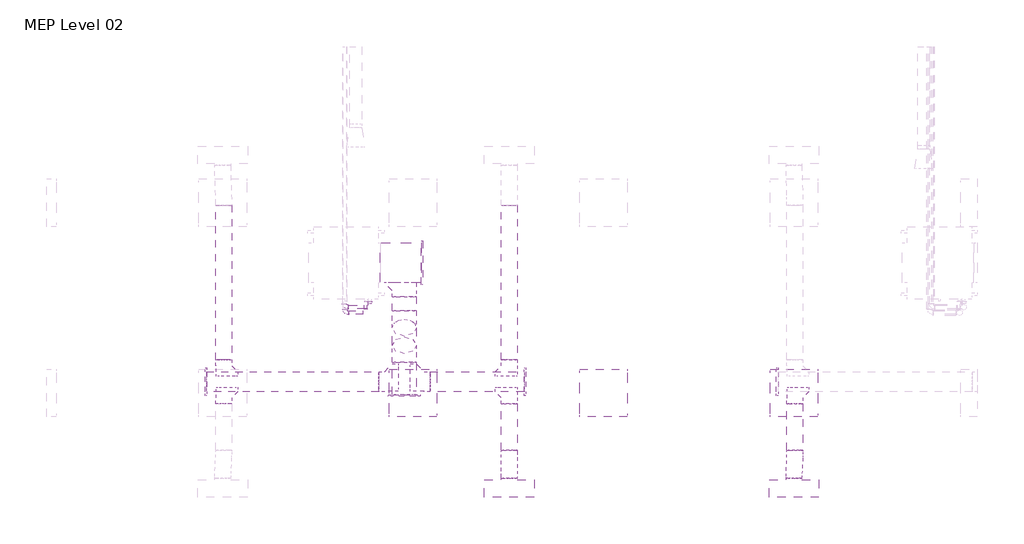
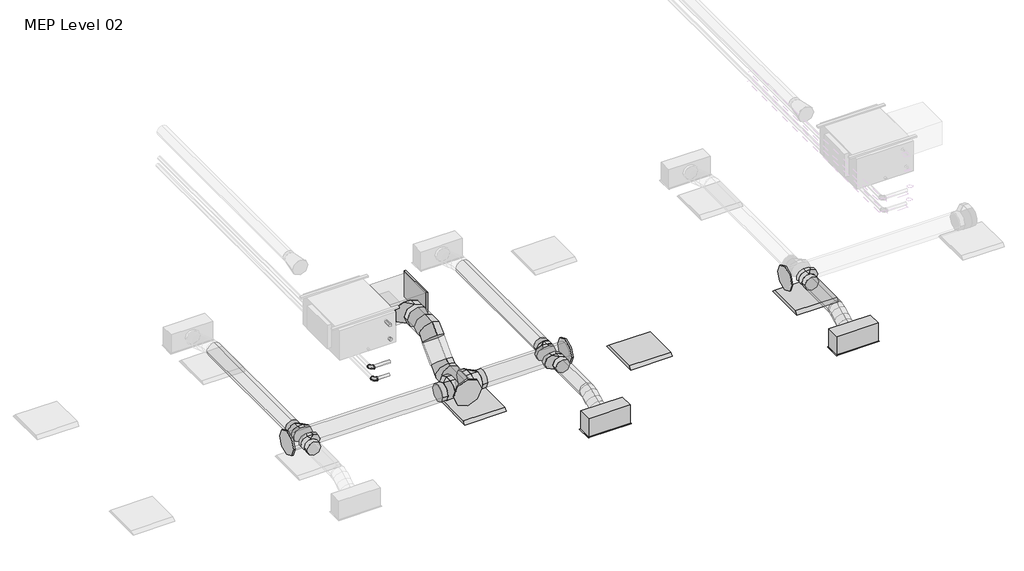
# One storey, part 5 of 26: 15 duct fittings, 12 duct segments, 4 pipe segments, 3 light fixtures, 2 air terminals, 2 pipe fittings.
"""IFC4 building model written with IfcOpenShell, lengths in millimetres."""

from ifc_helpers import new_model, si_unit, point, frame, frame_2d, origin, place, context, project, spatial, polyline, circle_curve, ellipse_curve, trimmed, segment, composite_curve, outline, extrude, transform, mapped, element, save
from ifc_brep_helpers import plane_surface, cylinder_surface, advanced_brep
from components import supply_diffuser_with_plenum_linear_slot_hosted_8c379eed, dw144_rectangular_blank_end_standard_8fde7d16, dw144_round_blank_end_standard_f82b0856, dw144_round_blank_end_standard_9aa061e7, dw144_round_segmented_bend_slip_joint_standard_8b80c5ae, dw144_round_shoe_branch_slip_joint_standard_15a2edd8, dw144_round_shoe_branch_slip_joint_standard_559552f4, dw144_round_shoe_branch_slip_joint_standard_7ba9e4ed, dw144_round_shoe_branch_slip_joint_standard_67b64720, light_fixture_600x600_230_1c7c1157, elbow_threaded_gmi_standard_b4aa7741

model = new_model("IFC4")

# Units and contexts
model_context = context("Model", 3, world=origin())
ifc_project = project(units=[si_unit("LENGTHUNIT", "METRE", prefix="MILLI")], contexts=[model_context])

# Site, building, storey
site = spatial("IfcSite", under=ifc_project)
building = spatial("IfcBuilding", under=site)
storey = spatial("IfcBuildingStorey", under=building, Name="MEP Level 02", Elevation=7800.0)

# Air terminals
placement = place(None, origin())
supply_diffuser_with_plenum_linear_slot_hosted_shape = supply_diffuser_with_plenum_linear_slot_hosted_8c379eed(model_context)
element("IfcAirTerminal", 1, ObjectType="Supply Diffuser with Plenum - Linear Slot - Hosted : 600mmx193.8mm-200 In Inlet  4-Slot", at=placement, inside=storey, context=model_context, shape_type="MappedRepresentation", body=[
    mapped(supply_diffuser_with_plenum_linear_slot_hosted_shape, transform((19973.9000022, 963.2000004, 10600.0), x_axis=(1.0, 0.0, 0.0), y_axis=(0.0, -1.0, 0.0), z_axis=(0.0, 0.0, -1.0))),
])
element("IfcAirTerminal", 2, ObjectType="Supply Diffuser with Plenum - Linear Slot - Hosted : 600mmx193.8mm-200 In Inlet  4-Slot", at=placement, inside=storey, context=model_context, shape_type="MappedRepresentation", body=[
    mapped(supply_diffuser_with_plenum_linear_slot_hosted_shape, transform((23562.2000027, 963.2000004, 10600.0), x_axis=(1.0, 0.0, 0.0), y_axis=(0.0, -1.0, 0.0), z_axis=(0.0, 0.0, -1.0))),
])

# Duct fittings
dw144_rectangular_blank_end_standard_shape = dw144_rectangular_blank_end_standard_8fde7d16(model_context)
element("IfcDuctFitting", 3, ObjectType="DW144 Rectangular Blank End : Standard", at=placement, inside=storey, context=model_context, shape_type="MappedRepresentation", body=[
    mapped(dw144_rectangular_blank_end_standard_shape, transform((18866.2561025, 3806.0000004, 11276.3911538), x_axis=(1.0, 0.0, 0.0), y_axis=(0.0, 1.0, 0.0), z_axis=(0.0, 0.0, 1.0))),
])
dw144_round_blank_end_standard_shape = dw144_round_blank_end_standard_f82b0856(model_context)
element("IfcDuctFitting", 4, ObjectType="DW144 Round Blank End : Standard", at=placement, inside=storey, context=model_context, shape_type="MappedRepresentation", body=[
    mapped(dw144_round_blank_end_standard_shape, transform((18651.4561025, 2142.9916128, 10872.2088531), x_axis=(0.0, -1.0, 0.0), y_axis=(1.0, 0.0, 0.0), z_axis=(0.0, 0.0, 1.0))),
])
dw144_round_blank_end_standard_2_shape = dw144_round_blank_end_standard_9aa061e7(model_context)
element("IfcDuctFitting", 5, ObjectType="DW144 Round Blank End : Standard", at=placement, inside=storey, context=model_context, shape_type="MappedRepresentation", body=[
    mapped(dw144_round_blank_end_standard_2_shape, transform((20161.4561025, 2306.5018192, 10872.2088531), x_axis=(1.0, 0.0, 0.0), y_axis=(0.0, 1.0, 0.0), z_axis=(0.0, 0.0, 1.0))),
])
element("IfcDuctFitting", 6, ObjectType="DW144 Round Blank End : Standard", at=placement, inside=storey, context=model_context, shape_type="MappedRepresentation", body=[
    mapped(dw144_round_blank_end_standard_2_shape, transform((16161.4561025, 2306.5018192, 10872.2088531), x_axis=(-1.0, 0.0, 0.0), y_axis=(0.0, -1.0, 0.0), z_axis=(0.0, 0.0, 1.0))),
])
element("IfcDuctFitting", 7, ObjectType="DW144 Round Blank End : Standard", at=placement, inside=storey, context=model_context, shape_type="MappedRepresentation", body=[
    mapped(dw144_round_blank_end_standard_2_shape, transform((23361.4561025, 2306.5018192, 10872.2088531), x_axis=(-1.0, 0.0, 0.0), y_axis=(0.0, -1.0, 0.0), z_axis=(0.0, 0.0, 1.0))),
])
dw144_round_segmented_bend_slip_joint_standard_shape = dw144_round_segmented_bend_slip_joint_standard_8b80c5ae(model_context)
element("IfcDuctFitting", 8, ObjectType="DW144 Round Segmented Bend - Slip Joint : Standard", at=placement, inside=storey, context=model_context, shape_type="MappedRepresentation", body=[
    mapped(dw144_round_segmented_bend_slip_joint_standard_shape, transform((18651.4561025, 2678.6338536, 10872.2088531), x_axis=(0.0, -0.7071067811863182, -0.7071067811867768), y_axis=(0.0, 0.7071067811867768, -0.7071067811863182), z_axis=(1.0, 0.0, 0.0))),
])
element("IfcDuctFitting", 9, ObjectType="DW144 Round Segmented Bend - Slip Joint : Standard", at=placement, inside=storey, context=model_context, shape_type="MappedRepresentation", body=[
    mapped(dw144_round_segmented_bend_slip_joint_standard_shape, transform((18651.4561025, 3076.0000004, 11269.575), x_axis=(0.0, -1.0, 0.0), y_axis=(0.0, 0.0, 1.0), z_axis=(-1.0, 0.0, 0.0))),
])
dw144_round_shoe_branch_slip_joint_standard_shape = dw144_round_shoe_branch_slip_joint_standard_15a2edd8(model_context)
element("IfcDuctFitting", 10, ObjectType="DW144 Round Shoe Branch - Slip Joint : Standard", at=placement, inside=storey, context=model_context, shape_type="MappedRepresentation", body=[
    mapped(dw144_round_shoe_branch_slip_joint_standard_shape, transform((16373.9000022, 2181.5018192, 10872.2088531), x_axis=(0.0, -1.0, 0.0), y_axis=(-1.0, 0.0, 0.0), z_axis=(0.0, 0.0, -1.0))),
])
element("IfcDuctFitting", 11, ObjectType="DW144 Round Shoe Branch - Slip Joint : Standard", at=placement, inside=storey, context=model_context, shape_type="MappedRepresentation", body=[
    mapped(dw144_round_shoe_branch_slip_joint_standard_shape, transform((16373.9000022, 2431.5018192, 10872.2088531), x_axis=(0.0, 1.0, 0.0), y_axis=(-1.0, 0.0, 0.0), z_axis=(0.0, 0.0, 1.0))),
])
element("IfcDuctFitting", 12, ObjectType="DW144 Round Shoe Branch - Slip Joint : Standard", at=placement, inside=storey, context=model_context, shape_type="MappedRepresentation", body=[
    mapped(dw144_round_shoe_branch_slip_joint_standard_shape, transform((23573.9000022, 2181.5018192, 10872.2088531), x_axis=(0.0, -1.0, 0.0), y_axis=(-1.0, 0.0, 0.0), z_axis=(0.0, 0.0, -1.0))),
])
dw144_round_shoe_branch_slip_joint_standard_2_shape = dw144_round_shoe_branch_slip_joint_standard_559552f4(model_context)
element("IfcDuctFitting", 13, ObjectType="DW144 Round Shoe Branch - Slip Joint : Standard", at=placement, inside=storey, context=model_context, shape_type="MappedRepresentation", body=[
    mapped(dw144_round_shoe_branch_slip_joint_standard_2_shape, transform((19973.9000022, 2181.5018192, 10872.2088531), x_axis=(0.0, -1.0, 0.0), y_axis=(-1.0, 0.0, 0.0), z_axis=(0.0, 0.0, -1.0))),
])
element("IfcDuctFitting", 14, ObjectType="DW144 Round Shoe Branch - Slip Joint : Standard", at=placement, inside=storey, context=model_context, shape_type="MappedRepresentation", body=[
    mapped(dw144_round_shoe_branch_slip_joint_standard_2_shape, transform((19973.9000022, 2431.5018192, 10872.2088531), x_axis=(0.0, 1.0, 0.0), y_axis=(-1.0, 0.0, 0.0), z_axis=(0.0, 0.0, 1.0))),
])
dw144_round_shoe_branch_slip_joint_standard_3_shape = dw144_round_shoe_branch_slip_joint_standard_7ba9e4ed(model_context)
element("IfcDuctFitting", 15, ObjectType="DW144 Round Shoe Branch - Slip Joint : Standard", at=placement, inside=storey, context=model_context, shape_type="MappedRepresentation", body=[
    mapped(dw144_round_shoe_branch_slip_joint_standard_3_shape, transform((18651.4561025, 3556.0000004, 11269.575), x_axis=(0.0, -1.0, 0.0), y_axis=(-1.0, 0.0, 0.0), z_axis=(0.0, 0.0, -1.0))),
])
dw144_round_shoe_branch_slip_joint_standard_4_shape = dw144_round_shoe_branch_slip_joint_standard_67b64720(model_context)
element("IfcDuctFitting", 16, ObjectType="DW144 Round Shoe Branch - Slip Joint : Standard", at=placement, inside=storey, context=model_context, shape_type="MappedRepresentation", body=[
    mapped(dw144_round_shoe_branch_slip_joint_standard_4_shape, transform((18801.4561025, 2306.5018192, 10872.2088531), x_axis=(1.0, 0.0, 0.0), y_axis=(0.0, -1.0, 0.0), z_axis=(0.0, 0.0, -1.0))),
])
element("IfcDuctFitting", 17, ObjectType="DW144 Round Shoe Branch - Slip Joint : Standard", at=placement, inside=storey, context=model_context, shape_type="MappedRepresentation", body=[
    mapped(dw144_round_shoe_branch_slip_joint_standard_4_shape, transform((18501.4561025, 2306.5018192, 10872.2088531), x_axis=(-1.0, 0.0, 0.0), y_axis=(0.0, -1.0, 0.0), z_axis=(0.0, 0.0, 1.0))),
])

# Duct segments
element("IfcDuctSegment", 18, ObjectType="DW144 Flanged Med Radius Bend / Shoe Branch", at=placement, inside=storey, context=model_context, shape_type="SweptSolid", body=[
    extrude(outline(polyline([(18346.6561025, 3556.0000004), (18346.6561025, 4056.0000004), (18866.2561025, 4056.0000004), (18866.2561025, 3556.0000004), (18346.6561025, 3556.0000004)])), frame((0.0, 0.0, 11101.3911538), z_axis=(0.0, 0.0, 1.0), x_axis=(1.0, 0.0, 0.0)), (0.0, 0.0, 1.0), 350.0),
])
element("IfcDuctSegment", 19, ObjectType="DW144 Segmented Bend / Shoe Branch", at=placement, inside=storey, context=model_context, shape_type="SweptSolid", body=[
    extrude(outline(composite_curve([segment(trimmed(circle_curve(frame_2d((11269.575, 18651.4561025)), 150.0), [point((11269.575, 18501.4561025))], [point((11119.575, 18651.4561025))], False, "CARTESIAN"), True, "CONTINUOUS"), segment(trimmed(circle_curve(frame_2d((11269.575, 18651.4561025)), 150.0), [point((11119.575, 18651.4561025))], [point((11269.575, 18801.4561025))], False, "CARTESIAN"), True, "CONTINUOUS"), segment(trimmed(circle_curve(frame_2d((11269.575, 18651.4561025)), 150.0), [point((11269.575, 18801.4561025))], [point((11419.575, 18651.4561025))], False, "CARTESIAN"), True, "CONTINUOUS"), segment(trimmed(circle_curve(frame_2d((11269.575, 18651.4561025)), 150.0), [point((11419.575, 18651.4561025))], [point((11269.575, 18501.4561025))], False, "CARTESIAN"), True, "CONTINUOUS")], self_intersect=False)), frame((0.0, 3200.2640691, 0.0), z_axis=(0.0, 1.0, 0.0), x_axis=(0.0, 0.0, 1.0)), (0.0, 0.0, 1.0), 180.7359313),
])
element("IfcDuctSegment", 20, ObjectType="DW144 Segmented Bend / Shoe Branch", at=placement, inside=storey, context=model_context, shape_type="SweptSolid", body=[
    extrude(outline(composite_curve([segment(trimmed(circle_curve(frame_2d((10872.2088531, 18651.4561025)), 150.0), [point((10872.2088531, 18501.4561025))], [point((10722.2088531, 18651.4561025))], False, "CARTESIAN"), True, "CONTINUOUS"), segment(trimmed(circle_curve(frame_2d((10872.2088531, 18651.4561025)), 150.0), [point((10722.2088531, 18651.4561025))], [point((10872.2088531, 18801.4561025))], False, "CARTESIAN"), True, "CONTINUOUS"), segment(trimmed(circle_curve(frame_2d((10872.2088531, 18651.4561025)), 150.0), [point((10872.2088531, 18801.4561025))], [point((11022.2088531, 18651.4561025))], False, "CARTESIAN"), True, "CONTINUOUS"), segment(trimmed(circle_curve(frame_2d((10872.2088531, 18651.4561025)), 150.0), [point((11022.2088531, 18651.4561025))], [point((10872.2088531, 18501.4561025))], False, "CARTESIAN"), True, "CONTINUOUS")], self_intersect=False)), frame((0.0, 2142.9916128, 0.0), z_axis=(0.0, 1.0, 0.0), x_axis=(0.0, 0.0, 1.0)), (0.0, 0.0, 1.0), 411.3781721),
])
element("IfcDuctSegment", 21, ObjectType="DW144 Segmented Bend / Shoe Branch", at=placement, inside=storey, context=model_context, shape_type="SweptSolid", body=[
    extrude(outline(composite_curve([segment(trimmed(circle_curve(frame_2d((0.0, -150.0)), 150.0), [point((-150.0, -150.0))], [point((0.0, 0.0))], False, "CARTESIAN"), True, "CONTINUOUS"), segment(trimmed(circle_curve(frame_2d((0.0, -150.0)), 150.0), [point((0.0, 0.0))], [point((150.0, -150.0))], False, "CARTESIAN"), True, "CONTINUOUS"), segment(trimmed(circle_curve(frame_2d((0.0, -150.0)), 150.0), [point((150.0, -150.0))], [point((0.0, -300.0))], False, "CARTESIAN"), True, "CONTINUOUS"), segment(trimmed(circle_curve(frame_2d((0.0, -150.0)), 150.0), [point((0.0, -300.0))], [point((-150.0, -150.0))], False, "CARTESIAN"), True, "CONTINUOUS")], self_intersect=False)), frame((18651.4561025, 2872.5678364, 10854.0108016), z_axis=(0.0, 0.7071067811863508, 0.7071067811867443), x_axis=(1.0, 0.0, 0.0)), (0.0, 0.0, 1.0), 313.4324567),
])
element("IfcDuctSegment", 22, ObjectType="DW144 Segmented Bend / Shoe Branch", at=placement, inside=storey, context=model_context, shape_type="SweptSolid", body=[
    extrude(outline(composite_curve([segment(trimmed(circle_curve(frame_2d((2306.5018192, 10872.2088531)), 125.0), [point((2181.5018192, 10872.2088531))], [point((2306.5018192, 10997.2088531))], False, "CARTESIAN"), True, "CONTINUOUS"), segment(trimmed(circle_curve(frame_2d((2306.5018192, 10872.2088531)), 125.0), [point((2306.5018192, 10997.2088531))], [point((2431.5018192, 10872.2088531))], False, "CARTESIAN"), True, "CONTINUOUS"), segment(trimmed(circle_curve(frame_2d((2306.5018192, 10872.2088531)), 125.0), [point((2431.5018192, 10872.2088531))], [point((2306.5018192, 10747.2088531))], False, "CARTESIAN"), True, "CONTINUOUS"), segment(trimmed(circle_curve(frame_2d((2306.5018192, 10872.2088531)), 125.0), [point((2306.5018192, 10747.2088531))], [point((2181.5018192, 10872.2088531))], False, "CARTESIAN"), True, "CONTINUOUS")], self_intersect=False)), frame((18976.4561025, 0.0, 0.0), z_axis=(1.0, 0.0, 0.0), x_axis=(0.0, 1.0, 0.0)), (0.0, 0.0, 1.0), 1185.0),
])
element("IfcDuctSegment", 23, ObjectType="DW144 Segmented Bend / Shoe Branch", at=placement, inside=storey, context=model_context, shape_type="SweptSolid", body=[
    extrude(outline(composite_curve([segment(trimmed(circle_curve(frame_2d((2306.5018192, 10872.2088531)), 125.0), [point((2431.5018192, 10872.2088531))], [point((2306.5018192, 10747.2088531))], False, "CARTESIAN"), True, "CONTINUOUS"), segment(trimmed(circle_curve(frame_2d((2306.5018192, 10872.2088531)), 125.0), [point((2306.5018192, 10747.2088531))], [point((2181.5018192, 10872.2088531))], False, "CARTESIAN"), True, "CONTINUOUS"), segment(trimmed(circle_curve(frame_2d((2306.5018192, 10872.2088531)), 125.0), [point((2181.5018192, 10872.2088531))], [point((2306.5018192, 10997.2088531))], False, "CARTESIAN"), True, "CONTINUOUS"), segment(trimmed(circle_curve(frame_2d((2306.5018192, 10872.2088531)), 125.0), [point((2306.5018192, 10997.2088531))], [point((2431.5018192, 10872.2088531))], False, "CARTESIAN"), True, "CONTINUOUS")], self_intersect=False)), frame((16161.4561025, 0.0, 0.0), z_axis=(1.0, 0.0, 0.0), x_axis=(0.0, 1.0, 0.0)), (0.0, 0.0, 1.0), 2165.0),
])
element("IfcDuctSegment", 24, ObjectType="DW144 Segmented Bend / Shoe Branch", at=placement, inside=storey, context=model_context, shape_type="SweptSolid", body=[
    extrude(outline(composite_curve([segment(trimmed(circle_curve(frame_2d((10872.2088531, 19973.9000022)), 100.0), [point((10872.2088531, 19873.9000022))], [point((10772.2088531, 19973.9000022))], False, "CARTESIAN"), True, "CONTINUOUS"), segment(trimmed(circle_curve(frame_2d((10872.2088531, 19973.9000022)), 100.0), [point((10772.2088531, 19973.9000022))], [point((10872.2088531, 20073.9000022))], False, "CARTESIAN"), True, "CONTINUOUS"), segment(trimmed(circle_curve(frame_2d((10872.2088531, 19973.9000022)), 100.0), [point((10872.2088531, 20073.9000022))], [point((10972.2088531, 19973.9000022))], False, "CARTESIAN"), True, "CONTINUOUS"), segment(trimmed(circle_curve(frame_2d((10872.2088531, 19973.9000022)), 100.0), [point((10972.2088531, 19973.9000022))], [point((10872.2088531, 19873.9000022))], False, "CARTESIAN"), True, "CONTINUOUS")], self_intersect=False)), frame((0.0, 1441.5018192, 0.0), z_axis=(0.0, 1.0, 0.0), x_axis=(0.0, 0.0, 1.0)), (0.0, 0.0, 1.0), 590.0),
])
element("IfcDuctSegment", 25, ObjectType="DW144 Segmented Bend / Shoe Branch", at=placement, inside=storey, context=model_context, shape_type="SweptSolid", body=[
    extrude(outline(composite_curve([segment(trimmed(circle_curve(frame_2d((10872.2088531, 19973.9000022)), 100.0), [point((10872.2088531, 20073.9000022))], [point((10972.2088531, 19973.9000022))], False, "CARTESIAN"), True, "CONTINUOUS"), segment(trimmed(circle_curve(frame_2d((10872.2088531, 19973.9000022)), 100.0), [point((10972.2088531, 19973.9000022))], [point((10872.2088531, 19873.9000022))], False, "CARTESIAN"), True, "CONTINUOUS"), segment(trimmed(circle_curve(frame_2d((10872.2088531, 19973.9000022)), 100.0), [point((10872.2088531, 19873.9000022))], [point((10772.2088531, 19973.9000022))], False, "CARTESIAN"), True, "CONTINUOUS"), segment(trimmed(circle_curve(frame_2d((10872.2088531, 19973.9000022)), 100.0), [point((10772.2088531, 19973.9000022))], [point((10872.2088531, 20073.9000022))], False, "CARTESIAN"), True, "CONTINUOUS")], self_intersect=False)), frame((0.0, 2581.5018192, 0.0), z_axis=(0.0, 1.0, 0.0), x_axis=(0.0, 0.0, 1.0)), (0.0, 0.0, 1.0), 1950.0),
])
element("IfcDuctSegment", 26, ObjectType="DW144 Segmented Bend / Shoe Branch", at=placement, inside=storey, context=model_context, shape_type="SweptSolid", body=[
    extrude(outline(composite_curve([segment(trimmed(circle_curve(frame_2d((10872.2088531, 16373.9000022)), 100.0), [point((10872.2088531, 16473.9000022))], [point((10972.2088531, 16373.9000022))], False, "CARTESIAN"), True, "CONTINUOUS"), segment(trimmed(circle_curve(frame_2d((10872.2088531, 16373.9000022)), 100.0), [point((10972.2088531, 16373.9000022))], [point((10872.2088531, 16273.9000022))], False, "CARTESIAN"), True, "CONTINUOUS"), segment(trimmed(circle_curve(frame_2d((10872.2088531, 16373.9000022)), 100.0), [point((10872.2088531, 16273.9000022))], [point((10772.2088531, 16373.9000022))], False, "CARTESIAN"), True, "CONTINUOUS"), segment(trimmed(circle_curve(frame_2d((10872.2088531, 16373.9000022)), 100.0), [point((10772.2088531, 16373.9000022))], [point((10872.2088531, 16473.9000022))], False, "CARTESIAN"), True, "CONTINUOUS")], self_intersect=False)), frame((0.0, 2581.5018192, 0.0), z_axis=(0.0, 1.0, 0.0), x_axis=(0.0, 0.0, 1.0)), (0.0, 0.0, 1.0), 1950.0),
])
element("IfcDuctSegment", 27, ObjectType="DW144 Segmented Bend / Shoe Branch", at=placement, inside=storey, context=model_context, shape_type="SweptSolid", body=[
    extrude(outline(composite_curve([segment(trimmed(circle_curve(frame_2d((10872.2088531, 23573.9000022)), 100.0), [point((10872.2088531, 23673.9000022))], [point((10972.2088531, 23573.9000022))], False, "CARTESIAN"), True, "CONTINUOUS"), segment(trimmed(circle_curve(frame_2d((10872.2088531, 23573.9000022)), 100.0), [point((10972.2088531, 23573.9000022))], [point((10872.2088531, 23473.9000022))], False, "CARTESIAN"), True, "CONTINUOUS"), segment(trimmed(circle_curve(frame_2d((10872.2088531, 23573.9000022)), 100.0), [point((10872.2088531, 23473.9000022))], [point((10772.2088531, 23573.9000022))], False, "CARTESIAN"), True, "CONTINUOUS"), segment(trimmed(circle_curve(frame_2d((10872.2088531, 23573.9000022)), 100.0), [point((10772.2088531, 23573.9000022))], [point((10872.2088531, 23673.9000022))], False, "CARTESIAN"), True, "CONTINUOUS")], self_intersect=False)), frame((0.0, 1441.5018192, 0.0), z_axis=(0.0, 1.0, 0.0), x_axis=(0.0, 0.0, 1.0)), (0.0, 0.0, 1.0), 590.0),
])
element("IfcDuctSegment", 28, ObjectType="Flex - Round", at=placement, inside=storey, context=model_context, shape_type="AdvancedBrep", body=[
    advanced_brep(
    [(20073.9000022, 1441.5018192, 10872.2088531), (19973.9000022, 1441.5018192, 10772.2088531), (19873.9000022, 1441.5018192, 10872.2088531), (19973.9000022, 1441.5018192, 10972.2088531), (20073.9000022, 1421.2831204, 10872.2088531), (19973.9000022, 1434.4030998, 10772.2088531), (19873.9000022, 1421.2831204, 10872.2088531), (19973.9000022, 1408.1631411, 10972.2088531), (20073.9000022, 1092.1000004, 10754.4), (19973.9000022, 1092.1000004, 10854.4), (19873.9000022, 1092.1000004, 10754.4), (19973.9000022, 1092.1000004, 10654.4), (20073.9000022, 1352.3395072, 10853.8012198), (19973.9000022, 1386.9157373, 10759.5299419), (19873.9000022, 1352.3395072, 10853.8012198), (19973.9000022, 1317.7632771, 10948.0724978), (20073.9000022, 1266.8009098, 10813.3044266), (19973.9000022, 1309.5909979, 10722.9218599), (19873.9000022, 1266.8009098, 10813.3044266), (19973.9000022, 1224.0108217, 10903.6869932), (20073.9000022, 1181.2623124, 10772.8076333), (19973.9000022, 1215.8385426, 10678.5363553), (19873.9000022, 1181.2623124, 10772.8076333), (19973.9000022, 1146.6860823, 10867.0789113), (20073.9000022, 1112.3186992, 10754.4), (19973.9000022, 1125.4386785, 10654.4), (19873.9000022, 1112.3186992, 10754.4), (19973.9000022, 1099.1987199, 10854.4)],
    [
        (0, 1, circle_curve(frame((19973.9000022, 1441.5018192, 10872.2088531), z_axis=(0.0, 1.0, 0.0), x_axis=(1.0, 0.0, 0.0)), 100.0)),
        (1, 2, circle_curve(frame((19973.9000022, 1441.5018192, 10872.2088531), z_axis=(0.0, 1.0, 0.0), x_axis=(1.0, 0.0, 0.0)), 100.0)),
        (2, 3, circle_curve(frame((19973.9000022, 1441.5018192, 10872.2088531), z_axis=(0.0, 1.0, 0.0), x_axis=(1.0, 0.0, 0.0)), 100.0)),
        (3, 0, circle_curve(frame((19973.9000022, 1441.5018192, 10872.2088531), z_axis=(0.0, 1.0, 0.0), x_axis=(1.0, 0.0, 0.0)), 100.0)),
        (0, 4),
        (4, 5, ellipse_curve(frame((19973.9000022, 1421.2831204, 10872.2088531), z_axis=(0.0, 0.9915028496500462, 0.1300849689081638), x_axis=(0.0, 0.1300849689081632, -0.9915028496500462)), 100.8569971, 100.0)),
        (5, 1),
        (5, 6, ellipse_curve(frame((19973.9000022, 1421.2831204, 10872.2088531), z_axis=(0.0, 0.9915028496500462, 0.1300849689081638), x_axis=(0.0, 0.1300849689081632, -0.9915028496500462)), 100.8569971, 100.0)),
        (6, 2),
        (6, 7, ellipse_curve(frame((19973.9000022, 1421.2831204, 10872.2088531), z_axis=(0.0, 0.9915028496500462, 0.1300849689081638), x_axis=(0.0, 0.1300849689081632, -0.9915028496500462)), 100.8569971, 100.0)),
        (7, 3),
        (7, 4, ellipse_curve(frame((19973.9000022, 1421.2831204, 10872.2088531), z_axis=(0.0, 0.9915028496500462, 0.1300849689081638), x_axis=(0.0, 0.1300849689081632, -0.9915028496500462)), 100.8569971, 100.0)),
        (8, 9, circle_curve(frame((19973.9000022, 1092.1000004, 10754.4), z_axis=(0.0, -1.0, 0.0), x_axis=(1.0, 0.0, 0.0)), 100.0)),
        (9, 10, circle_curve(frame((19973.9000022, 1092.1000004, 10754.4), z_axis=(0.0, -1.0, 0.0), x_axis=(1.0, 0.0, 0.0)), 100.0)),
        (10, 11, circle_curve(frame((19973.9000022, 1092.1000004, 10754.4), z_axis=(0.0, -1.0, 0.0), x_axis=(1.0, 0.0, 0.0)), 100.0)),
        (11, 8, circle_curve(frame((19973.9000022, 1092.1000004, 10754.4), z_axis=(0.0, -1.0, 0.0), x_axis=(1.0, 0.0, 0.0)), 100.0)),
        (4, 12),
        (12, 13, ellipse_curve(frame((19973.9000022, 1352.3395072, 10853.8012198), z_axis=(0.0, 0.9388438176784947, 0.3443432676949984), x_axis=(0.0, 0.34434326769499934, -0.9388438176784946)), 100.4120986, 100.0)),
        (13, 5),
        (13, 14, ellipse_curve(frame((19973.9000022, 1352.3395072, 10853.8012198), z_axis=(0.0, 0.9388438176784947, 0.3443432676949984), x_axis=(0.0, 0.34434326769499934, -0.9388438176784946)), 100.4120986, 100.0)),
        (14, 6),
        (14, 15, ellipse_curve(frame((19973.9000022, 1352.3395072, 10853.8012198), z_axis=(0.0, 0.9388438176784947, 0.3443432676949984), x_axis=(0.0, 0.34434326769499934, -0.9388438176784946)), 100.4120986, 100.0)),
        (15, 7),
        (15, 12, ellipse_curve(frame((19973.9000022, 1352.3395072, 10853.8012198), z_axis=(0.0, 0.9388438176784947, 0.3443432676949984), x_axis=(0.0, 0.34434326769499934, -0.9388438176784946)), 100.4120986, 100.0)),
        (12, 16),
        (16, 17, circle_curve(frame((19973.9000022, 1266.8009098, 10813.3044266), z_axis=(0.0, 0.9038256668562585, 0.42790088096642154), x_axis=(1.0, 0.0, 0.0)), 100.0)),
        (17, 13),
        (17, 18, circle_curve(frame((19973.9000022, 1266.8009098, 10813.3044266), z_axis=(0.0, 0.9038256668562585, 0.42790088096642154), x_axis=(1.0, 0.0, 0.0)), 100.0)),
        (18, 14),
        (18, 19, circle_curve(frame((19973.9000022, 1266.8009098, 10813.3044266), z_axis=(0.0, 0.9038256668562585, 0.42790088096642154), x_axis=(1.0, 0.0, 0.0)), 100.0)),
        (19, 15),
        (19, 16, circle_curve(frame((19973.9000022, 1266.8009098, 10813.3044266), z_axis=(0.0, 0.9038256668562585, 0.42790088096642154), x_axis=(1.0, 0.0, 0.0)), 100.0)),
        (16, 20),
        (20, 21, ellipse_curve(frame((19973.9000022, 1181.2623124, 10772.8076333), z_axis=(0.0, 0.9388438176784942, 0.3443432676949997), x_axis=(0.0, -0.3443432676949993, 0.9388438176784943)), 100.4120986, 100.0)),
        (21, 17),
        (21, 22, ellipse_curve(frame((19973.9000022, 1181.2623124, 10772.8076333), z_axis=(0.0, 0.9388438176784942, 0.3443432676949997), x_axis=(0.0, -0.3443432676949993, 0.9388438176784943)), 100.4120986, 100.0)),
        (22, 18),
        (22, 23, ellipse_curve(frame((19973.9000022, 1181.2623124, 10772.8076333), z_axis=(0.0, 0.9388438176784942, 0.3443432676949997), x_axis=(0.0, -0.3443432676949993, 0.9388438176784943)), 100.4120986, 100.0)),
        (23, 19),
        (23, 20, ellipse_curve(frame((19973.9000022, 1181.2623124, 10772.8076333), z_axis=(0.0, 0.9388438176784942, 0.3443432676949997), x_axis=(0.0, -0.3443432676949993, 0.9388438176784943)), 100.4120986, 100.0)),
        (20, 24),
        (24, 25, ellipse_curve(frame((19973.9000022, 1112.3186992, 10754.4), z_axis=(0.0, 0.9915028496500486, 0.13008496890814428), x_axis=(0.0, -0.13008496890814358, 0.9915028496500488)), 100.8569971, 100.0)),
        (25, 21),
        (25, 26, ellipse_curve(frame((19973.9000022, 1112.3186992, 10754.4), z_axis=(0.0, 0.9915028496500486, 0.13008496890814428), x_axis=(0.0, -0.13008496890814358, 0.9915028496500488)), 100.8569971, 100.0)),
        (26, 22),
        (26, 27, ellipse_curve(frame((19973.9000022, 1112.3186992, 10754.4), z_axis=(0.0, 0.9915028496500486, 0.13008496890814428), x_axis=(0.0, -0.13008496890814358, 0.9915028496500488)), 100.8569971, 100.0)),
        (27, 23),
        (27, 24, ellipse_curve(frame((19973.9000022, 1112.3186992, 10754.4), z_axis=(0.0, 0.9915028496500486, 0.13008496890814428), x_axis=(0.0, -0.13008496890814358, 0.9915028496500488)), 100.8569971, 100.0)),
        (24, 8),
        (11, 25),
        (10, 26),
        (9, 27),
    ],
    [
        plane_surface(frame((19873.9000022, 1441.5018192, 10872.2088531), z_axis=(0.0, 1.0, 0.0), x_axis=(0.0, 0.0, -1.0))),
        cylinder_surface(frame((19973.9000022, 1441.5018192, 10872.2088531), z_axis=(0.0, 1.0, 0.0), x_axis=(1.0, 0.0, 0.0)), 100.0),
        plane_surface(frame((19873.9000022, 1092.1000004, 10754.4), z_axis=(0.0, -1.0, 0.0), x_axis=(0.0, 0.0, -1.0))),
        cylinder_surface(frame((19973.9000022, 1421.2831204, 10872.2088531), z_axis=(0.0, 0.9661558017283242, 0.2579592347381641), x_axis=(1.0, 0.0, 0.0)), 100.0),
        cylinder_surface(frame((19973.9000022, 1352.3395072, 10853.8012198), z_axis=(0.0, 0.9038256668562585, 0.42790088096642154), x_axis=(1.0, 0.0, 0.0)), 100.0),
        cylinder_surface(frame((19973.9000022, 1266.8009098, 10813.3044266), z_axis=(0.0, 0.9038256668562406, 0.42790088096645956), x_axis=(1.0, 0.0, 0.0)), 100.0),
        cylinder_surface(frame((19973.9000022, 1181.2623124, 10772.8076333), z_axis=(0.0, 0.9661558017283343, 0.25795923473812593), x_axis=(1.0, 0.0, 0.0)), 100.0),
        cylinder_surface(frame((19973.9000022, 1112.3186992, 10754.4), z_axis=(0.0, 1.0, 0.0), x_axis=(1.0, 0.0, 0.0)), 100.0),
    ],
    [
        (0, [[1, 2, 3, 4]]),
        (1, [[-1, 5, 6, 7]]),
        (1, [[-2, -7, 8, 9]]),
        (1, [[-3, -9, 10, 11]]),
        (1, [[-4, -11, 12, -5]]),
        (2, [[13, 14, 15, 16]]),
        (3, [[-6, 17, 18, 19]]),
        (3, [[-8, -19, 20, 21]]),
        (3, [[-10, -21, 22, 23]]),
        (3, [[-12, -23, 24, -17]]),
        (4, [[-18, 25, 26, 27]]),
        (4, [[-20, -27, 28, 29]]),
        (4, [[-22, -29, 30, 31]]),
        (4, [[-24, -31, 32, -25]]),
        (5, [[-26, 33, 34, 35]]),
        (5, [[-28, -35, 36, 37]]),
        (5, [[-30, -37, 38, 39]]),
        (5, [[-32, -39, 40, -33]]),
        (6, [[-34, 41, 42, 43]]),
        (6, [[-36, -43, 44, 45]]),
        (6, [[-38, -45, 46, 47]]),
        (6, [[-40, -47, 48, -41]]),
        (7, [[-42, 49, -16, 50]]),
        (7, [[-44, -50, -15, 51]]),
        (7, [[-46, -51, -14, 52]]),
        (7, [[-48, -52, -13, -49]]),
    ],
),
])
element("IfcDuctSegment", 29, ObjectType="Flex - Round", at=placement, inside=storey, context=model_context, shape_type="AdvancedBrep", body=[
    advanced_brep(
    [(23673.9000022, 1441.5018192, 10872.2088531), (23573.9000022, 1441.5018192, 10772.2088531), (23473.9000022, 1441.5018192, 10872.2088531), (23573.9000022, 1441.5018192, 10972.2088531), (23673.9000022, 1419.9886644, 10872.2088531), (23573.9000022, 1434.4041273, 10772.2088531), (23473.9000022, 1422.5932881, 10872.2088531), (23573.9000022, 1408.1778252, 10972.2088531), (23662.2000027, 1092.1000004, 10754.4), (23562.2000027, 1092.1000004, 10854.4), (23462.2000027, 1092.1000004, 10754.4), (23562.2000027, 1092.1000004, 10654.4), (23672.0154345, 1348.8904029, 10853.2328893), (23572.6402079, 1386.8764181, 10759.5238159), (23472.1283201, 1355.7538157, 10854.3695504), (23571.5035467, 1317.7678004, 10948.0786237), (23667.9552415, 1262.5544078, 10812.3502664), (23569.0041626, 1309.5595036, 10722.9119919), (23468.1447633, 1271.0474118, 10814.2585867), (23567.0958423, 1224.0423161, 10903.6968612), (23663.9716847, 1177.8480039, 10772.2393027), (23564.5964582, 1215.8340192, 10678.5302294), (23464.0845704, 1184.7114168, 10773.3759639), (23563.459797, 1146.7254015, 10867.0850372), (23662.2000027, 1111.0085316, 10754.4), (23562.2000027, 1125.4239944, 10654.4), (23462.2000027, 1113.6131552, 10754.4), (23562.2000027, 1099.1976924, 10854.4)],
    [
        (0, 1, circle_curve(frame((23573.9000022, 1441.5018192, 10872.2088531), z_axis=(0.0, 1.0, 0.0), x_axis=(1.0, 0.0, 0.0)), 100.0)),
        (1, 2, circle_curve(frame((23573.9000022, 1441.5018192, 10872.2088531), z_axis=(0.0, 1.0, 0.0), x_axis=(1.0, 0.0, 0.0)), 100.0)),
        (2, 3, circle_curve(frame((23573.9000022, 1441.5018192, 10872.2088531), z_axis=(0.0, 1.0, 0.0), x_axis=(1.0, 0.0, 0.0)), 100.0)),
        (3, 0, circle_curve(frame((23573.9000022, 1441.5018192, 10872.2088531), z_axis=(0.0, 1.0, 0.0), x_axis=(1.0, 0.0, 0.0)), 100.0)),
        (0, 4),
        (4, 5, ellipse_curve(frame((23573.9000022, 1421.2909763, 10872.2088531), z_axis=(0.012911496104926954, 0.9914289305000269, 0.13000757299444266), x_axis=(-0.09798018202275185, 0.1306471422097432, -0.9865754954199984)), 100.8645168, 100.0)),
        (5, 1),
        (5, 6, ellipse_curve(frame((23573.9000022, 1421.2909763, 10872.2088531), z_axis=(0.012911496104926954, 0.9914289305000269, 0.13000757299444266), x_axis=(-0.09798018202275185, 0.1306471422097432, -0.9865754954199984)), 100.8645168, 100.0)),
        (6, 2),
        (6, 7, ellipse_curve(frame((23573.9000022, 1421.2909763, 10872.2088531), z_axis=(0.012911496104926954, 0.9914289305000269, 0.13000757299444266), x_axis=(-0.09798018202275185, 0.1306471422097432, -0.9865754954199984)), 100.8645168, 100.0)),
        (7, 3),
        (7, 4, ellipse_curve(frame((23573.9000022, 1421.2909763, 10872.2088531), z_axis=(0.012911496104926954, 0.9914289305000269, 0.13000757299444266), x_axis=(-0.09798018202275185, 0.1306471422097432, -0.9865754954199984)), 100.8645168, 100.0)),
        (8, 9, circle_curve(frame((23562.2000027, 1092.1000004, 10754.4), z_axis=(0.0, -1.0, 0.0), x_axis=(1.0, 0.0, 0.0)), 100.0)),
        (9, 10, circle_curve(frame((23562.2000027, 1092.1000004, 10754.4), z_axis=(0.0, -1.0, 0.0), x_axis=(1.0, 0.0, 0.0)), 100.0)),
        (10, 11, circle_curve(frame((23562.2000027, 1092.1000004, 10754.4), z_axis=(0.0, -1.0, 0.0), x_axis=(1.0, 0.0, 0.0)), 100.0)),
        (11, 8, circle_curve(frame((23562.2000027, 1092.1000004, 10754.4), z_axis=(0.0, -1.0, 0.0), x_axis=(1.0, 0.0, 0.0)), 100.0)),
        (4, 12),
        (12, 13, ellipse_curve(frame((23572.0718773, 1352.3221093, 10853.8012198), z_axis=(0.034174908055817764, 0.9383065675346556, 0.3441116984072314), x_axis=(-0.09273024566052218, 0.3458045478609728, -0.9337131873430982)), 100.4159667, 100.0)),
        (13, 5),
        (13, 14, ellipse_curve(frame((23572.0718773, 1352.3221093, 10853.8012198), z_axis=(0.034174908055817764, 0.9383065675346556, 0.3441116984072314), x_axis=(-0.09273024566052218, 0.3458045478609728, -0.9337131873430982)), 100.4159667, 100.0)),
        (14, 6),
        (14, 15, ellipse_curve(frame((23572.0718773, 1352.3221093, 10853.8012198), z_axis=(0.034174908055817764, 0.9383065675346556, 0.3441116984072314), x_axis=(-0.09273024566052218, 0.3458045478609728, -0.9337131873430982)), 100.4159667, 100.0)),
        (15, 7),
        (15, 12, ellipse_curve(frame((23572.0718773, 1352.3221093, 10853.8012198), z_axis=(0.034174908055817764, 0.9383065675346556, 0.3441116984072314), x_axis=(-0.09273024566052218, 0.3458045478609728, -0.9337131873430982)), 100.4159667, 100.0)),
        (12, 16),
        (16, 17, circle_curve(frame((23568.0500024, 1266.8009098, 10813.3044266), z_axis=(0.04246501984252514, 0.9029767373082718, 0.4275859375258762), x_axis=(0.9990523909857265, -0.04246501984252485, -0.00954160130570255)), 100.0)),
        (17, 13),
        (17, 18, circle_curve(frame((23568.0500024, 1266.8009098, 10813.3044266), z_axis=(0.04246501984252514, 0.9029767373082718, 0.4275859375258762), x_axis=(0.9990523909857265, -0.04246501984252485, -0.00954160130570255)), 100.0)),
        (18, 14),
        (18, 19, circle_curve(frame((23568.0500024, 1266.8009098, 10813.3044266), z_axis=(0.04246501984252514, 0.9029767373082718, 0.4275859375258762), x_axis=(0.9990523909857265, -0.04246501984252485, -0.00954160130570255)), 100.0)),
        (19, 15),
        (19, 16, circle_curve(frame((23568.0500024, 1266.8009098, 10813.3044266), z_axis=(0.04246501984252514, 0.9029767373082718, 0.4275859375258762), x_axis=(0.9990523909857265, -0.04246501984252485, -0.00954160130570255)), 100.0)),
        (16, 20),
        (20, 21, ellipse_curve(frame((23564.0281276, 1181.2797104, 10772.8076333), z_axis=(0.03417490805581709, 0.9383065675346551, 0.34411169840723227), x_axis=(0.09273024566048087, -0.34580454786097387, 0.9337131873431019)), 100.4159667, 100.0)),
        (21, 17),
        (21, 22, ellipse_curve(frame((23564.0281276, 1181.2797104, 10772.8076333), z_axis=(0.03417490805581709, 0.9383065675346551, 0.34411169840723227), x_axis=(0.09273024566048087, -0.34580454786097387, 0.9337131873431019)), 100.4159667, 100.0)),
        (22, 18),
        (22, 23, ellipse_curve(frame((23564.0281276, 1181.2797104, 10772.8076333), z_axis=(0.03417490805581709, 0.9383065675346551, 0.34411169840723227), x_axis=(0.09273024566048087, -0.34580454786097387, 0.9337131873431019)), 100.4159667, 100.0)),
        (23, 19),
        (23, 20, ellipse_curve(frame((23564.0281276, 1181.2797104, 10772.8076333), z_axis=(0.03417490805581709, 0.9383065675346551, 0.34411169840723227), x_axis=(0.09273024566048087, -0.34580454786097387, 0.9337131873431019)), 100.4159667, 100.0)),
        (20, 24),
        (24, 25, ellipse_curve(frame((23562.2000027, 1112.3108434, 10754.4), z_axis=(0.012911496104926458, 0.9914289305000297, 0.13000757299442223), x_axis=(0.09798018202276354, -0.13064714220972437, 0.9865754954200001)), 100.8645168, 100.0)),
        (25, 21),
        (25, 26, ellipse_curve(frame((23562.2000027, 1112.3108434, 10754.4), z_axis=(0.012911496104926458, 0.9914289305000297, 0.13000757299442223), x_axis=(0.09798018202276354, -0.13064714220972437, 0.9865754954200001)), 100.8645168, 100.0)),
        (26, 22),
        (26, 27, ellipse_curve(frame((23562.2000027, 1112.3108434, 10754.4), z_axis=(0.012911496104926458, 0.9914289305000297, 0.13000757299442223), x_axis=(0.09798018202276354, -0.13064714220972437, 0.9865754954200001)), 100.8645168, 100.0)),
        (27, 23),
        (27, 24, ellipse_curve(frame((23562.2000027, 1112.3108434, 10754.4), z_axis=(0.012911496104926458, 0.9914289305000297, 0.13000757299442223), x_axis=(0.09798018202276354, -0.13064714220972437, 0.9865754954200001)), 100.8645168, 100.0)),
        (24, 8),
        (11, 25),
        (10, 26),
        (9, 27),
    ],
    [
        plane_surface(frame((23473.9000022, 1441.5018192, 10872.2088531), z_axis=(0.0, 1.0, 0.0), x_axis=(0.0, 0.0, -1.0))),
        cylinder_surface(frame((23573.9000022, 1441.5018192, 10872.2088531), z_axis=(0.0, 1.0, 0.0), x_axis=(1.0, 0.0, 0.0)), 100.0),
        plane_surface(frame((23462.2000027, 1092.1000004, 10754.4), z_axis=(0.0, -1.0, 0.0), x_axis=(0.0, 0.0, -1.0))),
        cylinder_surface(frame((23573.9000022, 1421.2909763, 10872.2088531), z_axis=(0.025601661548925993, 0.9658626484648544, 0.257786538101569), x_axis=(0.999666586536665, -0.025601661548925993, -0.003357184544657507)), 100.0),
        cylinder_surface(frame((23572.0718773, 1352.3221093, 10853.8012198), z_axis=(0.04246501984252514, 0.9029767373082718, 0.4275859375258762), x_axis=(0.9990523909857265, -0.04246501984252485, -0.00954160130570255)), 100.0),
        cylinder_surface(frame((23568.0500024, 1266.8009098, 10813.3044266), z_axis=(0.04246501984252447, 0.9029767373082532, 0.4275859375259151), x_axis=(0.9990523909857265, -0.04246501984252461, -0.009541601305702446)), 100.0),
        cylinder_surface(frame((23564.0281276, 1181.2797104, 10772.8076333), z_axis=(0.02560166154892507, 0.9658626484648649, 0.25778653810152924), x_axis=(0.999666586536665, -0.025601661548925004, -0.0033571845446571)), 100.0),
        cylinder_surface(frame((23562.2000027, 1112.3108434, 10754.4), z_axis=(0.0, 1.0, 0.0), x_axis=(1.0, 0.0, 0.0)), 100.0),
    ],
    [
        (0, [[1, 2, 3, 4]]),
        (1, [[-1, 5, 6, 7]]),
        (1, [[-2, -7, 8, 9]]),
        (1, [[-3, -9, 10, 11]]),
        (1, [[-4, -11, 12, -5]]),
        (2, [[13, 14, 15, 16]]),
        (3, [[-6, 17, 18, 19]]),
        (3, [[-8, -19, 20, 21]]),
        (3, [[-10, -21, 22, 23]]),
        (3, [[-12, -23, 24, -17]]),
        (4, [[-18, 25, 26, 27]]),
        (4, [[-20, -27, 28, 29]]),
        (4, [[-22, -29, 30, 31]]),
        (4, [[-24, -31, 32, -25]]),
        (5, [[-26, 33, 34, 35]]),
        (5, [[-28, -35, 36, 37]]),
        (5, [[-30, -37, 38, 39]]),
        (5, [[-32, -39, 40, -33]]),
        (6, [[-34, 41, 42, 43]]),
        (6, [[-36, -43, 44, 45]]),
        (6, [[-38, -45, 46, 47]]),
        (6, [[-40, -47, 48, -41]]),
        (7, [[-42, 49, -16, 50]]),
        (7, [[-44, -50, -15, 51]]),
        (7, [[-46, -51, -14, 52]]),
        (7, [[-48, -52, -13, -49]]),
    ],
),
])

# Light fixtures
light_fixture_600x600_230_shape = light_fixture_600x600_230_1c7c1157(model_context)
element("IfcLightFixture", 30, ObjectType="ELEKTRA Recessed Lighting Fixture : 600x600 - 230", at=placement, inside=storey, context=model_context, shape_type="MappedRepresentation", body=[
    mapped(light_fixture_600x600_230_shape, transform((23262.2000027, 1863.2000004, 10600.0), x_axis=(1.0, 0.0, 0.0), y_axis=(0.0, -1.0, 0.0), z_axis=(0.0, 0.0, -1.0))),
])
element("IfcLightFixture", 31, ObjectType="ELEKTRA Recessed Lighting Fixture : 600x600 - 230", at=placement, inside=storey, context=model_context, shape_type="MappedRepresentation", body=[
    mapped(light_fixture_600x600_230_shape, transform((20862.2000027, 1863.2000004, 10600.0), x_axis=(1.0, 0.0, 0.0), y_axis=(0.0, -1.0, 0.0), z_axis=(0.0, 0.0, -1.0))),
])
element("IfcLightFixture", 32, ObjectType="ELEKTRA Recessed Lighting Fixture : 600x600 - 230", at=placement, inside=storey, context=model_context, shape_type="MappedRepresentation", body=[
    mapped(light_fixture_600x600_230_shape, transform((18462.2000027, 1863.2000004, 10600.0), x_axis=(1.0, 0.0, 0.0), y_axis=(0.0, -1.0, 0.0), z_axis=(0.0, 0.0, -1.0))),
])

# Pipe fittings
elbow_threaded_gmi_standard_shape = elbow_threaded_gmi_standard_b4aa7741(model_context)
element("IfcPipeFitting", 33, ObjectType="Elbow - Threaded - GMI : Standard", at=placement, inside=storey, context=model_context, shape_type="MappedRepresentation", body=[
    mapped(elbow_threaded_gmi_standard_shape, transform((17903.0774681, 3177.232951, 10693.9343179), x_axis=(0.0, -1.0, 0.0), y_axis=(1.0, 0.0, 0.0), z_axis=(0.0, 0.0, 1.0))),
])
element("IfcPipeFitting", 34, ObjectType="Elbow - Threaded - GMI : Standard", at=placement, inside=storey, context=model_context, shape_type="MappedRepresentation", body=[
    mapped(elbow_threaded_gmi_standard_shape, transform((17898.7529576, 3246.7427522, 10834.6193977), x_axis=(0.0, -1.0, 0.0), y_axis=(1.0, 0.0, 0.0), z_axis=(0.0, 0.0, 1.0))),
])

# Pipe segments
element("IfcPipeSegment", 35, ObjectType="Carbon Steel - Threaded", at=placement, inside=storey, context=model_context, shape_type="SweptSolid", body=[
    extrude(outline(composite_curve([segment(trimmed(circle_curve(frame_2d((11123.9911538, 18219.6561025)), 21.45), [point((11123.9911538, 18241.1061025))], [point((11145.4411538, 18219.6561025))], False, "CARTESIAN"), True, "CONTINUOUS"), segment(trimmed(circle_curve(frame_2d((11123.9911538, 18219.6561025)), 21.45), [point((11145.4411538, 18219.6561025))], [point((11123.9911538, 18198.2061025))], False, "CARTESIAN"), True, "CONTINUOUS"), segment(trimmed(circle_curve(frame_2d((11123.9911538, 18219.6561025)), 21.45), [point((11123.9911538, 18198.2061025))], [point((11102.5411538, 18219.6561025))], False, "CARTESIAN"), True, "CONTINUOUS"), segment(trimmed(circle_curve(frame_2d((11123.9911538, 18219.6561025)), 21.45), [point((11102.5411538, 18219.6561025))], [point((11123.9911538, 18241.1061025))], False, "CARTESIAN"), True, "CONTINUOUS")], self_intersect=False)), frame((0.0, 3291.7427522, 0.0), z_axis=(0.0, 1.0, 0.0), x_axis=(0.0, 0.0, 1.0)), (0.0, 0.0, 1.0), 31.6572482),
])
element("IfcPipeSegment", 36, ObjectType="Carbon Steel - Threaded", at=placement, inside=storey, context=model_context, shape_type="SweptSolid", body=[
    extrude(outline(composite_curve([segment(trimmed(circle_curve(frame_2d((11403.3911538, 18168.8561025)), 21.45), [point((11403.3911538, 18190.3061025))], [point((11424.8411538, 18168.8561025))], False, "CARTESIAN"), True, "CONTINUOUS"), segment(trimmed(circle_curve(frame_2d((11403.3911538, 18168.8561025)), 21.45), [point((11424.8411538, 18168.8561025))], [point((11403.3911538, 18147.4061025))], False, "CARTESIAN"), True, "CONTINUOUS"), segment(trimmed(circle_curve(frame_2d((11403.3911538, 18168.8561025)), 21.45), [point((11403.3911538, 18147.4061025))], [point((11381.9411538, 18168.8561025))], False, "CARTESIAN"), True, "CONTINUOUS"), segment(trimmed(circle_curve(frame_2d((11403.3911538, 18168.8561025)), 21.45), [point((11381.9411538, 18168.8561025))], [point((11403.3911538, 18190.3061025))], False, "CARTESIAN"), True, "CONTINUOUS")], self_intersect=False)), frame((0.0, 3222.232951, 0.0), z_axis=(0.0, 1.0, 0.0), x_axis=(0.0, 0.0, 1.0)), (0.0, 0.0, 1.0), 101.1670495),
])
element("IfcPipeSegment", 37, ObjectType="Carbon Steel - Threaded", at=placement, inside=storey, context=model_context, shape_type="SweptSolid", body=[
    extrude(outline(composite_curve([segment(trimmed(circle_curve(frame_2d((3177.232951, 10693.9343179)), 21.45), [point((3198.682951, 10693.9343179))], [point((3177.232951, 10672.4843179))], False, "CARTESIAN"), True, "CONTINUOUS"), segment(trimmed(circle_curve(frame_2d((3177.232951, 10693.9343179)), 21.45), [point((3177.232951, 10672.4843179))], [point((3155.782951, 10693.9343179))], False, "CARTESIAN"), True, "CONTINUOUS"), segment(trimmed(circle_curve(frame_2d((3177.232951, 10693.9343179)), 21.45), [point((3155.782951, 10693.9343179))], [point((3177.232951, 10715.3843179))], False, "CARTESIAN"), True, "CONTINUOUS"), segment(trimmed(circle_curve(frame_2d((3177.232951, 10693.9343179)), 21.45), [point((3177.232951, 10715.3843179))], [point((3198.682951, 10693.9343179))], False, "CARTESIAN"), True, "CONTINUOUS")], self_intersect=False)), frame((17948.0774681, 0.0, 0.0), z_axis=(1.0, 0.0, 0.0), x_axis=(0.0, 1.0, 0.0)), (0.0, 0.0, 1.0), 175.7786344),
])
element("IfcPipeSegment", 38, ObjectType="Carbon Steel - Threaded", at=placement, inside=storey, context=model_context, shape_type="SweptSolid", body=[
    extrude(outline(composite_curve([segment(trimmed(circle_curve(frame_2d((3246.7427522, 10834.6193977)), 21.45), [point((3268.1927522, 10834.6193977))], [point((3246.7427522, 10813.1693977))], False, "CARTESIAN"), True, "CONTINUOUS"), segment(trimmed(circle_curve(frame_2d((3246.7427522, 10834.6193977)), 21.45), [point((3246.7427522, 10813.1693977))], [point((3225.2927522, 10834.6193977))], False, "CARTESIAN"), True, "CONTINUOUS"), segment(trimmed(circle_curve(frame_2d((3246.7427522, 10834.6193977)), 21.45), [point((3225.2927522, 10834.6193977))], [point((3246.7427522, 10856.0693977))], False, "CARTESIAN"), True, "CONTINUOUS"), segment(trimmed(circle_curve(frame_2d((3246.7427522, 10834.6193977)), 21.45), [point((3246.7427522, 10856.0693977))], [point((3268.1927522, 10834.6193977))], False, "CARTESIAN"), True, "CONTINUOUS")], self_intersect=False)), frame((17943.7529576, 0.0, 0.0), z_axis=(1.0, 0.0, 0.0), x_axis=(0.0, 1.0, 0.0)), (0.0, 0.0, 1.0), 230.9031448),
])

save(model, "model.ifc")
